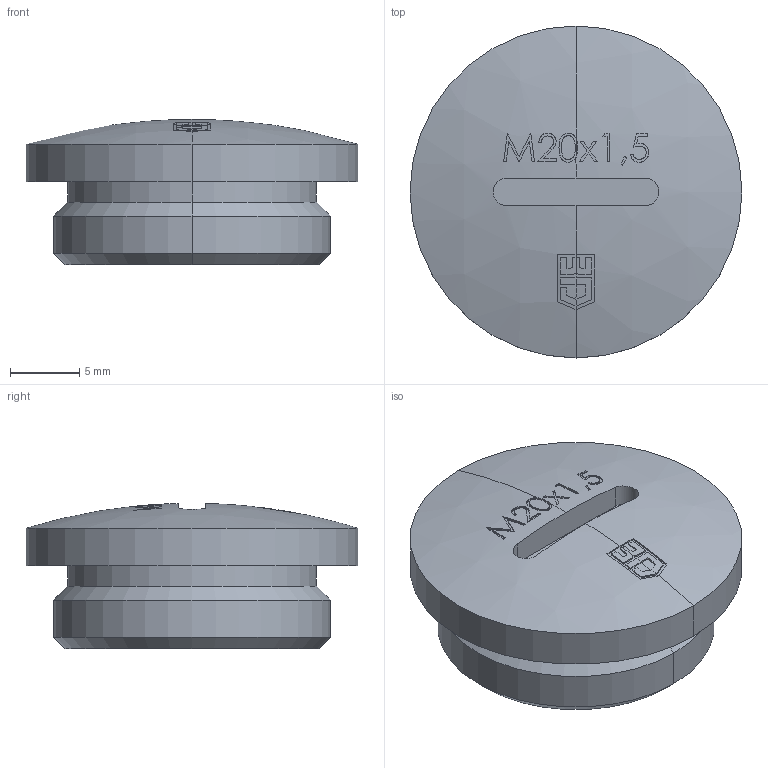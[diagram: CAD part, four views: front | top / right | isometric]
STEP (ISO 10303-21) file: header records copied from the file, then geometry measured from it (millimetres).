
FILE_DESCRIPTION (( 'STEP AP203' ), '1' );
FILE_NAME ('10.2015 PA.STEP', '2005-11-30T08:54:38', ( ' ' ), ( '' ), 'SwSTEP 2.0', 'SolidWorks 2005278', '' );
FILE_SCHEMA (( 'CONFIG_CONTROL_DESIGN' ));
Length unit declared in the file: millimetre
Products named in the file (1): 10.2015 PA
Bounding box: 24 x 24 x 10.49 mm (x, y, z)
Volume: 2026.7 mm3; surface area: 1998.3 mm2
Topology: 1 solids, 1 shells, 149 faces, 396 edges, 258 vertices
Faces by surface type: plane 89, sphere 23, bspline 22, cylinder 11, cone 4
Entity records: 6685 total; most frequent: CARTESIAN_POINT 2893, DIRECTION 794, ORIENTED_EDGE 792, EDGE_CURVE 396, AXIS2_PLACEMENT_3D 333, VERTEX_POINT 258, CIRCLE 205, EDGE_LOOP 158
